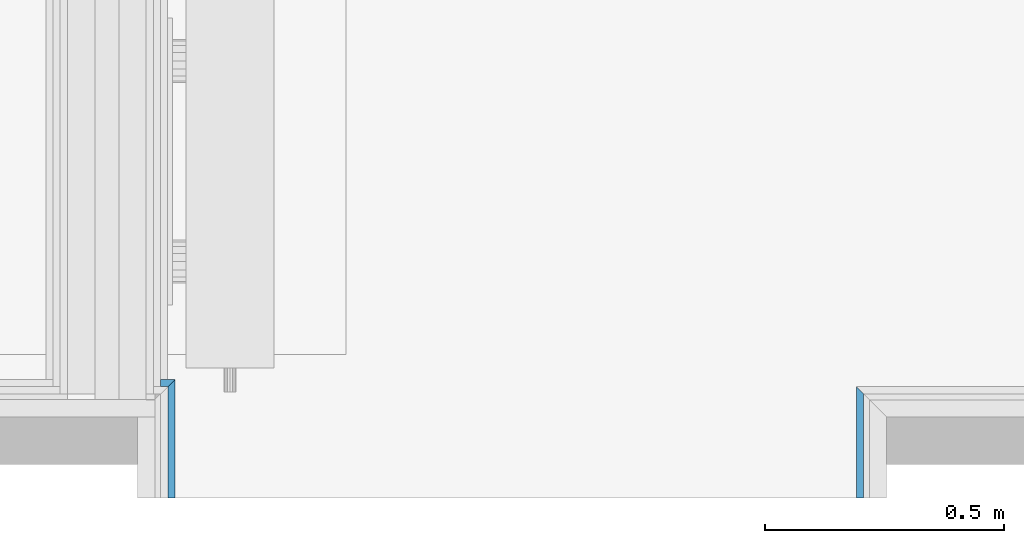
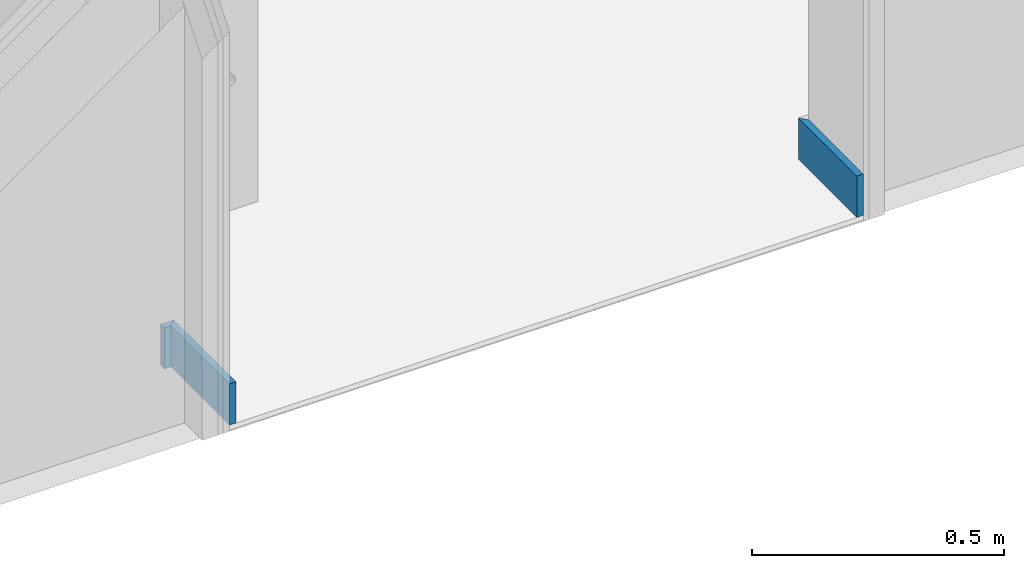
# One storey, part 36 of 64: 3 building element parts, 3 elements without a shape of their own.
"""IFC2X3 building model written with IfcOpenShell, lengths in metres."""

from ifc_helpers import new_model, entity, si_unit, converted_unit, derived_unit, money_unit, direction, frame, origin_with_axes, place, context, subcontext, project, spatial, polyline, outline, extrude, material, type_object, element, aggregate, save


model = new_model("IFC2X3")

# Units and contexts
model_context = context("Model", 3, precision=1e-05, world=origin_with_axes(), true_north=direction((0.0, 1.0)))
body_context = subcontext(model_context, "Body", "Model", "MODEL_VIEW", scale=1.0)
ifc_project = project(units=[si_unit("LENGTHUNIT", "METRE"), si_unit("AREAUNIT", "SQUARE_METRE"), si_unit("VOLUMEUNIT", "CUBIC_METRE"), si_unit("ABSORBEDDOSEUNIT", "GRAY"), si_unit("AMOUNTOFSUBSTANCEUNIT", "MOLE"), si_unit("DOSEEQUIVALENTUNIT", "SIEVERT"), si_unit("ELECTRICCAPACITANCEUNIT", "FARAD"), si_unit("ELECTRICCHARGEUNIT", "COULOMB"), si_unit("ELECTRICCONDUCTANCEUNIT", "SIEMENS"), si_unit("ELECTRICCURRENTUNIT", "AMPERE"), si_unit("ELECTRICRESISTANCEUNIT", "OHM"), si_unit("ELECTRICVOLTAGEUNIT", "VOLT"), si_unit("ENERGYUNIT", "JOULE"), si_unit("FORCEUNIT", "NEWTON"), si_unit("FREQUENCYUNIT", "HERTZ"), si_unit("ILLUMINANCEUNIT", "LUX"), si_unit("INDUCTANCEUNIT", "HENRY"), si_unit("LUMINOUSFLUXUNIT", "LUMEN"), si_unit("LUMINOUSINTENSITYUNIT", "CANDELA"), si_unit("MAGNETICFLUXDENSITYUNIT", "TESLA"), si_unit("MAGNETICFLUXUNIT", "WEBER"), si_unit("MASSUNIT", "GRAM"), converted_unit("PLANEANGLEUNIT", "degree", entity("IfcReal", 0.0174532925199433), si_unit("PLANEANGLEUNIT", "RADIAN"), dimensions=[0, 0, 0, 0, 0, 0, 0]), si_unit("POWERUNIT", "WATT"), si_unit("PRESSUREUNIT", "PASCAL"), si_unit("RADIOACTIVITYUNIT", "BECQUEREL"), si_unit("SOLIDANGLEUNIT", "STERADIAN"), si_unit("THERMODYNAMICTEMPERATUREUNIT", "KELVIN"), si_unit("TIMEUNIT", "SECOND"), derived_unit("ACCELERATIONUNIT", [(si_unit("LENGTHUNIT", "METRE"), 1), (si_unit("TIMEUNIT", "SECOND"), -2)]), derived_unit("ANGULARVELOCITYUNIT", [(converted_unit("PLANEANGLEUNIT", "degree", entity("IfcReal", 0.0174532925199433), si_unit("PLANEANGLEUNIT", "RADIAN"), dimensions=[0, 0, 0, 0, 0, 0, 0]), 1), (si_unit("TIMEUNIT", "SECOND"), -1)]), derived_unit("CURVATUREUNIT", [(converted_unit("PLANEANGLEUNIT", "degree", entity("IfcReal", 0.0174532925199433), si_unit("PLANEANGLEUNIT", "RADIAN"), dimensions=[0, 0, 0, 0, 0, 0, 0]), 1), (si_unit("LENGTHUNIT", "METRE"), -1)]), derived_unit("DYNAMICVISCOSITYUNIT", [(si_unit("PRESSUREUNIT", "PASCAL"), 1), (si_unit("TIMEUNIT", "SECOND"), 1)]), derived_unit("HEATFLUXDENSITYUNIT", [(si_unit("POWERUNIT", "WATT"), 1), (si_unit("LENGTHUNIT", "METRE"), -2)]), derived_unit("HEATINGVALUEUNIT", [(si_unit("ENERGYUNIT", "JOULE"), 1), (si_unit("MASSUNIT", "GRAM"), -1)]), derived_unit("INTEGERCOUNTRATEUNIT", [(si_unit("TIMEUNIT", "SECOND"), -1)]), derived_unit("IONCONCENTRATIONUNIT", [(si_unit("MASSUNIT", "GRAM"), 1), (si_unit("VOLUMEUNIT", "CUBIC_METRE"), -1)]), derived_unit("ISOTHERMALMOISTURECAPACITYUNIT", [(si_unit("VOLUMEUNIT", "CUBIC_METRE"), 1), (si_unit("MASSUNIT", "GRAM"), -1)]), derived_unit("KINEMATICVISCOSITYUNIT", [(si_unit("AREAUNIT", "SQUARE_METRE"), 1), (si_unit("TIMEUNIT", "SECOND"), -1)]), derived_unit("LINEARFORCEUNIT", [(si_unit("FORCEUNIT", "NEWTON"), 1), (si_unit("LENGTHUNIT", "METRE"), -1)]), derived_unit("LINEARMOMENTUNIT", [(si_unit("FORCEUNIT", "NEWTON"), 1), (si_unit("LENGTHUNIT", "METRE"), -1)]), derived_unit("LINEARSTIFFNESSUNIT", [(si_unit("FORCEUNIT", "NEWTON"), 1), (si_unit("LENGTHUNIT", "METRE"), -1)]), derived_unit("LINEARVELOCITYUNIT", [(si_unit("LENGTHUNIT", "METRE"), 1), (si_unit("TIMEUNIT", "SECOND"), -1)]), derived_unit("LUMINOUSINTENSITYDISTRIBUTIONUNIT", [(si_unit("LUMINOUSINTENSITYUNIT", "CANDELA"), 1), (si_unit("LUMINOUSFLUXUNIT", "LUMEN"), -1)]), derived_unit("MASSDENSITYUNIT", [(si_unit("MASSUNIT", "GRAM"), 1), (si_unit("VOLUMEUNIT", "CUBIC_METRE"), -1)]), derived_unit("MASSFLOWRATEUNIT", [(si_unit("MASSUNIT", "GRAM"), 1), (si_unit("TIMEUNIT", "SECOND"), -1)]), derived_unit("MASSPERLENGTHUNIT", [(si_unit("MASSUNIT", "GRAM"), 1), (si_unit("LENGTHUNIT", "METRE"), -1)]), derived_unit("MODULUSOFELASTICITYUNIT", [(si_unit("FORCEUNIT", "NEWTON"), 1), (si_unit("AREAUNIT", "SQUARE_METRE"), -1)]), derived_unit("MODULUSOFLINEARSUBGRADEREACTIONUNIT", [(si_unit("FORCEUNIT", "NEWTON"), 1), (si_unit("LENGTHUNIT", "METRE"), -2)]), derived_unit("MODULUSOFROTATIONALSUBGRADEREACTIONUNIT", [(si_unit("FORCEUNIT", "NEWTON"), 1), (si_unit("LENGTHUNIT", "METRE"), 1)]), derived_unit("MODULUSOFSUBGRADEREACTIONUNIT", [(si_unit("FORCEUNIT", "NEWTON"), 1), (si_unit("VOLUMEUNIT", "CUBIC_METRE"), -1)]), derived_unit("MOISTUREDIFFUSIVITYUNIT", [(si_unit("VOLUMEUNIT", "CUBIC_METRE"), 1), (si_unit("TIMEUNIT", "SECOND"), -1)]), derived_unit("MOLECULARWEIGHTUNIT", [(si_unit("MASSUNIT", "GRAM"), 1), (si_unit("AMOUNTOFSUBSTANCEUNIT", "MOLE"), -1)]), derived_unit("PLANARFORCEUNIT", [(si_unit("FORCEUNIT", "NEWTON"), 1), (si_unit("LENGTHUNIT", "METRE"), -2)]), derived_unit("ROTATIONALFREQUENCYUNIT", [(si_unit("TIMEUNIT", "SECOND"), -1)]), derived_unit("ROTATIONALMASSUNIT", [(si_unit("MASSUNIT", "GRAM"), 1), (si_unit("LENGTHUNIT", "METRE"), 2)]), derived_unit("ROTATIONALSTIFFNESSUNIT", [(si_unit("FORCEUNIT", "NEWTON"), 1), (si_unit("LENGTHUNIT", "METRE"), 1), (converted_unit("PLANEANGLEUNIT", "degree", entity("IfcReal", 0.0174532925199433), si_unit("PLANEANGLEUNIT", "RADIAN"), dimensions=[0, 0, 0, 0, 0, 0, 0]), -1)]), derived_unit("SECTIONAREAINTEGRALUNIT", [(si_unit("LENGTHUNIT", "METRE"), 5)]), derived_unit("SECTIONMODULUSUNIT", [(si_unit("LENGTHUNIT", "METRE"), 3)]), derived_unit("SHEARMODULUSUNIT", [(si_unit("FORCEUNIT", "NEWTON"), 1), (si_unit("AREAUNIT", "SQUARE_METRE"), -1)]), derived_unit("SOUNDPOWERUNIT", [(si_unit("ENERGYUNIT", "JOULE"), 1), (si_unit("TIMEUNIT", "SECOND"), -1)]), derived_unit("SPECIFICHEATCAPACITYUNIT", [(si_unit("FORCEUNIT", "NEWTON"), 1), (si_unit("MASSUNIT", "GRAM"), -1), (si_unit("THERMODYNAMICTEMPERATUREUNIT", "KELVIN"), -1)]), derived_unit("TEMPERATUREGRADIENTUNIT", [(si_unit("THERMODYNAMICTEMPERATUREUNIT", "KELVIN"), 1), (si_unit("LENGTHUNIT", "METRE"), -1)]), derived_unit("THERMALADMITTANCEUNIT", [(si_unit("POWERUNIT", "WATT"), 1), (si_unit("AREAUNIT", "SQUARE_METRE"), -1), (si_unit("THERMODYNAMICTEMPERATUREUNIT", "KELVIN"), -1)]), derived_unit("THERMALCONDUCTANCEUNIT", [(si_unit("POWERUNIT", "WATT"), 1), (si_unit("LENGTHUNIT", "METRE"), -1), (si_unit("THERMODYNAMICTEMPERATUREUNIT", "KELVIN"), -1)]), derived_unit("THERMALEXPANSIONCOEFFICIENTUNIT", [(si_unit("THERMODYNAMICTEMPERATUREUNIT", "KELVIN"), -1)]), derived_unit("THERMALRESISTANCEUNIT", [(si_unit("AREAUNIT", "SQUARE_METRE"), 1), (si_unit("POWERUNIT", "WATT"), -1)]), derived_unit("THERMALTRANSMITTANCEUNIT", [(si_unit("POWERUNIT", "WATT"), 1), (si_unit("AREAUNIT", "SQUARE_METRE"), -1), (si_unit("THERMODYNAMICTEMPERATUREUNIT", "KELVIN"), -1)]), derived_unit("TORQUEUNIT", [(si_unit("FORCEUNIT", "NEWTON"), 1), (si_unit("LENGTHUNIT", "METRE"), 1)]), derived_unit("VAPORPERMEABILITYUNIT", [(si_unit("MASSUNIT", "GRAM"), 1), (si_unit("TIMEUNIT", "SECOND"), -1)]), derived_unit("VOLUMETRICFLOWRATEUNIT", [(si_unit("VOLUMEUNIT", "CUBIC_METRE"), 1), (si_unit("TIMEUNIT", "SECOND"), -1)]), derived_unit("WARPINGCONSTANTUNIT", [(si_unit("LENGTHUNIT", "METRE"), 6)]), derived_unit("WARPINGMOMENTUNIT", [(si_unit("FORCEUNIT", "NEWTON"), 1), (si_unit("LENGTHUNIT", "METRE"), 2)]), money_unit("GBP")], contexts=[model_context])

# Site, building, storey
site_placement = place(None, origin_with_axes())
site = spatial("IfcSite", under=ifc_project, at=site_placement, Name="Site", CompositionType="ELEMENT")
building_placement = place(site_placement, origin_with_axes())
building = spatial("IfcBuilding", under=site, at=building_placement, Name="Building01", CompositionType="ELEMENT")
storey_placement = place(building_placement, frame((0.0, 0.0, 8.64), z_axis=(0.0, 0.0, 1.0), x_axis=(1.0, 0.0, 0.0)))
storey = spatial("IfcBuildingStorey", under=building, at=storey_placement, Name="2F", CompositionType="ELEMENT", Elevation=8.64)

# Wall, building element part
wall_type_1 = type_object("IfcWallType", Name="SHE_A-Walls_Type06d_ExternalWallInsulation_48mm", PredefinedType="NOTDEFINED")
wall_1_placement = place(storey_placement, frame((24.143, 0.1, 0.0), z_axis=(0.0, 0.0, 1.0), x_axis=(0.0, 1.0, 0.0)))
wall_1 = element("IfcWall", 1, at=wall_1_placement, inside=storey, type_object=wall_type_1, Name="6D", ObjectType="SHE_A-Walls_Type06d_ExternalWallInsulation_48mm")
ifc_material = material(Name="A_BSUK_Walls_Timber")
building_element_part_1_placement = place(wall_1_placement, origin_with_axes())
building_element_part_1 = element("IfcBuildingElementPart", 2, at=building_element_part_1_placement, material=ifc_material, Name="3", context=body_context, shape_type="SweptSolid", body=[
    extrude(outline(polyline([(0.233, 0.063), (0.0, 0.063), (0.0, 0.048), (0.218, 0.048), (0.233, 0.063)])), frame((0.0, 0.0, 0.015), z_axis=(0.0, 0.0, 1.0), x_axis=(1.0, 0.0, 0.0)), (0.0, 0.0, 1.0), 0.1),
])
aggregate(wall_1, [building_element_part_1])

wall_type_2 = type_object("IfcWallType", Name="SHE_A-Walls_Type06f_ExternalWallInsulation_48+15mm", PredefinedType="NOTDEFINED")
wall_2_placement = place(storey_placement, frame((22.613124, 0.27, 0.0), z_axis=(0.0, 0.0, 1.0), x_axis=(1.0, 0.0, 0.0)))
wall_2 = element("IfcWall", 3, at=wall_2_placement, inside=storey, type_object=wall_type_2, Name="6F", ObjectType="SHE_A-Walls_Type06f_ExternalWallInsulation_48+15mm")
building_element_part_2_placement = place(wall_2_placement, origin_with_axes())
building_element_part_2 = element("IfcBuildingElementPart", 4, at=building_element_part_2_placement, material=ifc_material, Name="6", context=body_context, shape_type="SweptSolid", body=[
    extrude(outline(polyline([(0.027, 0.063), (0.042, 0.078), (0.011876, 0.078), (0.011876, 0.063), (0.027, 0.063)])), frame((0.0, 0.0, 0.015), z_axis=(0.0, 0.0, 1.0), x_axis=(1.0, 0.0, 0.0)), (0.0, 0.0, 1.0), 0.1),
])
aggregate(wall_2, [building_element_part_2])

wall_3_placement = place(storey_placement, frame((22.577124, 0.27, 0.0), z_axis=(0.0, 0.0, 1.0), x_axis=(0.0, 1.0, 0.0)))
wall_3 = element("IfcWall", 5, at=wall_3_placement, inside=storey, type_object=wall_type_2, Name="6F", ObjectType="SHE_A-Walls_Type06f_ExternalWallInsulation_48+15mm")
building_element_part_3_placement = place(wall_3_placement, origin_with_axes())
building_element_part_3 = element("IfcBuildingElementPart", 6, at=building_element_part_3_placement, material=ifc_material, Name="1", context=body_context, shape_type="SweptSolid", body=[
    extrude(outline(polyline([(-0.17, -0.078), (0.078, -0.078), (0.063, -0.063), (-0.17, -0.063), (-0.17, -0.078)])), frame((0.0, 0.0, 0.015), z_axis=(0.0, 0.0, 1.0), x_axis=(1.0, 0.0, 0.0)), (0.0, 0.0, 1.0), 0.1),
])
aggregate(wall_3, [building_element_part_3])

save(model, "model.ifc")
